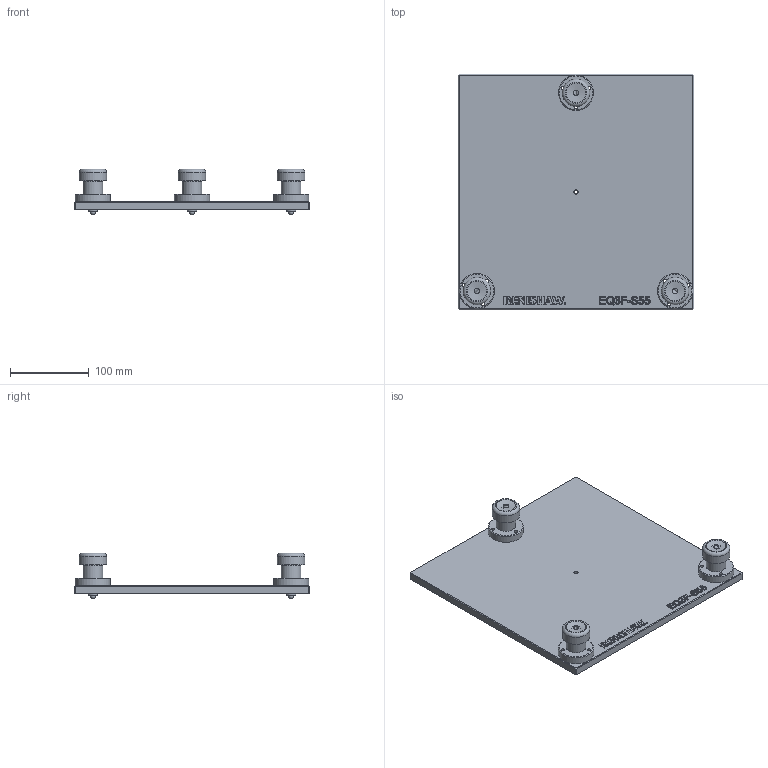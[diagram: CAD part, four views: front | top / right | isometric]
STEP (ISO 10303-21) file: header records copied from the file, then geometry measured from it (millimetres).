
FILE_DESCRIPTION(/* description */ (''),/* implementation_level */ '2;1');
FILE_NAME(/* name */ 'A-5504-0203-02_B.stp',/* time_stamp */ '2017-12-13T10:54:52+00:00',/* author */ (''),/* organization */ (''),/* preprocessor_version */ 'ST-DEVELOPER v16',/* originating_system */ 'SIEMENS PLM Software NX 10.0',/* authorisation */ '');
FILE_SCHEMA (('AP203_CONFIGURATION_CONTROLLED_3D_DESIGN_OF_MECHANICAL_PARTS_AND_ASSEMBLIES_MIM_LF { 1 0 10303 403 2 1 2}'));
Length unit declared in the file: millimetre
Products named in the file (1): cj131E8072CBwarc
Bounding box: 300 x 300 x 58.1 mm (x, y, z)
Volume: 1004511.8 mm3; surface area: 231451.6 mm2
Topology: 19 solids, 19 shells, 618 faces, 1433 edges, 909 vertices
Faces by surface type: plane 373, cylinder 114, bspline 48, extrusion 47, torus 21, cone 12, sphere 3
Full cylindrical faces by diameter (mm): 1 x3, 1.87 x1, 2.37 x1, 4.3 x9, 5.2 x10, 5.5 x3, 6 x6, 7 x3, 9 x9, 12 x3, 12.5 x3, 15.9 x3, 16.05 x3, 25 x6, 25.5 x3, 35 x3, 45 x3
Entity records: 19932 total; most frequent: CARTESIAN_POINT 6911, ORIENTED_EDGE 2602, DIRECTION 2314, EDGE_CURVE 1301, VERTEX_POINT 888, EDGE_LOOP 832, AXIS2_PLACEMENT_3D 786, VECTOR 742
